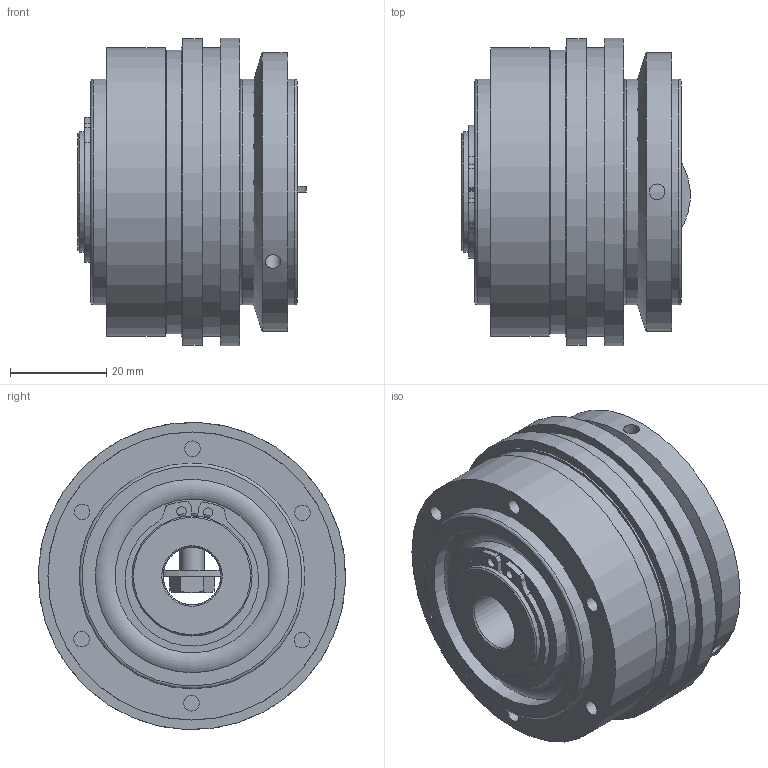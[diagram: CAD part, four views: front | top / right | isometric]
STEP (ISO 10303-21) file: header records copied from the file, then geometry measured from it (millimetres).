
FILE_DESCRIPTION( ( 'Unknown' ), '1' );
FILE_NAME( 'C:/Dokumente und Einstellungen/Sven/Desktop/hp kbk/KBK L-I-30.stp', 'Unknown', ( 'Unknown' ), ( 'Unknown' ), 'XStep 1.0', 'Unknown', ' ' );
FILE_SCHEMA( ( 'automotive_design' ) );
Length unit declared in the file: millimetre
Products named in the file (12): Assem1; Assem2; ball_bearing_-_6005_0_01; ball_bearing_-_6005_0_02; ball_bearing_-_6005_0_03; Stellring 30; Druckring 30; a_25; KBK L-I-30 Grundkörper; Flansch L30; Konusbuchse KBK L-I-30; din_en_24017_m5x16
Bounding box: 47.5 x 64 x 64 mm (x, y, z)
Volume: 171453 mm3; surface area: 104003.3 mm2
Topology: 28 solids, 28 shells, 447 faces, 948 edges, 604 vertices
Faces by surface type: plane 189, cylinder 134, cone 94, torus 30
Full cylindrical faces by diameter (mm): 2 x4, 3.242 x18, 4.134 x18, 5 x7, 5.5 x12, 6.88 x7, 12 x4, 23.9 x2, 24.4 x2, 25 x7, 32 x6, 34 x2, 38 x4, 39.5 x2, 40 x2, 40.3 x6, 47 x5, 52 x2, 58 x2, 59 x2, 60 x2, 64 x2
Entity records: 4553 total; most frequent: CARTESIAN_POINT 1019, DIRECTION 746, ORIENTED_EDGE 500, AXIS2_PLACEMENT_3D 345, EDGE_LOOP 294, EDGE_CURVE 250, FACE_OUTER_BOUND 218, VERTEX_POINT 202
